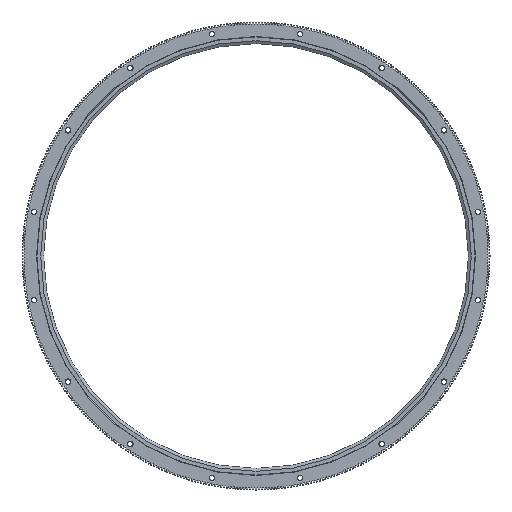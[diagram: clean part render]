
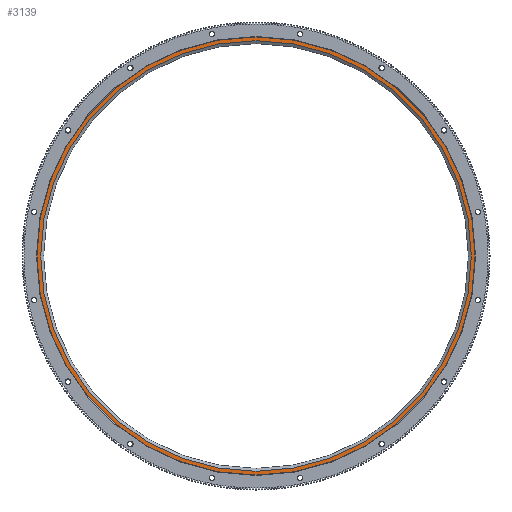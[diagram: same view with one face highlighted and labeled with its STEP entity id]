
A CAD part, front view. The second image highlights one B-rep face of the part: STEP entity #3139.
In plain terms, the highlighted planar face has unit normal (0, -1, 0).
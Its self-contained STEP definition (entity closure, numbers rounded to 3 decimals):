
#3139 = ADVANCED_FACE( '', ( #9362, #9363 ), #9364, .T. );
#9362 = FACE_OUTER_BOUND( '', #15616, .T. );
#9363 = FACE_BOUND( '', #15617, .T. );
#9364 = PLANE( '', #15618 );
#15616 = EDGE_LOOP( '', ( #40485 ) );
#15617 = EDGE_LOOP( '', ( #40486 ) );
#15618 = AXIS2_PLACEMENT_3D( '', #40487, #40488, #40489 );
#40485 = ORIENTED_EDGE( '', *, *, #52136, .T. );
#40486 = ORIENTED_EDGE( '', *, *, #52135, .F. );
#40487 = CARTESIAN_POINT( '', ( 288.664, 9.5, 0. ) );
#40488 = DIRECTION( '', ( 0., -1., 0. ) );
#40489 = DIRECTION( '', ( 0., 0., -1. ) );
#52135 = EDGE_CURVE( '', #67305, #67305, #67306, .T. );
#52136 = EDGE_CURVE( '', #67307, #67307, #67308, .T. );
#67305 = VERTEX_POINT( '', #91977 );
#67306 = CIRCLE( '', #91978, 288.664 );
#67307 = VERTEX_POINT( '', #91979 );
#67308 = CIRCLE( '', #91980, 294.35 );
#91977 = CARTESIAN_POINT( '', ( 0., 9.5, -288.664 ) );
#91978 = AXIS2_PLACEMENT_3D( '', #103246, #103247, #103248 );
#91979 = CARTESIAN_POINT( '', ( 0., 9.5, -294.35 ) );
#91980 = AXIS2_PLACEMENT_3D( '', #103249, #103250, #103251 );
#103246 = CARTESIAN_POINT( '', ( 0., 9.5, 0. ) );
#103247 = DIRECTION( '', ( 0., -1., 0. ) );
#103248 = DIRECTION( '', ( 0., 0., -1. ) );
#103249 = CARTESIAN_POINT( '', ( 0., 9.5, 0. ) );
#103250 = DIRECTION( '', ( 0., -1., 0. ) );
#103251 = DIRECTION( '', ( 0., 0., -1. ) );
